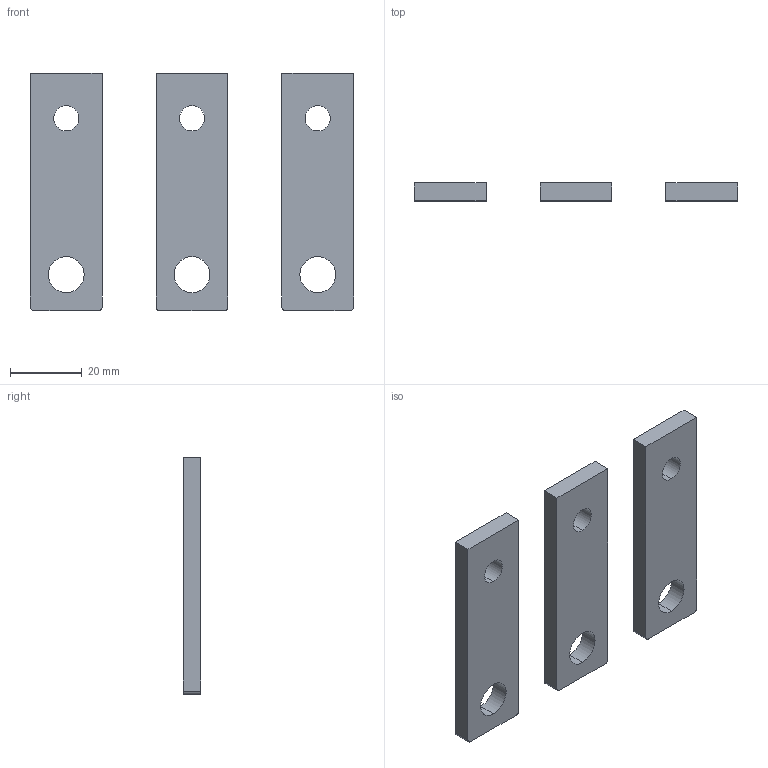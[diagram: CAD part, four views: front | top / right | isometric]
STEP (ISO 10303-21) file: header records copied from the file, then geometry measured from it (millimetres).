
FILE_DESCRIPTION (( 'STEP AP214' ), '1' );
FILE_NAME ('150-250 3 3detali.STEP', '2025-11-26T11:05:16', ( '' ), ( '' ), 'SwSTEP 2.0', 'SolidWorks 2024', '' );
FILE_SCHEMA (( 'AUTOMOTIVE_DESIGN' ));
Length unit declared in the file: millimetre
Products named in the file (2): 150-250 3 3detali; 125-250
Assembly tree (3 placements, depth 2):
  150-250 3 3detali
    125-250  x3
Bounding box: 90 x 5 x 66 mm (x, y, z)
Volume: 18038.2 mm3; surface area: 10583.5 mm2
Topology: 3 solids, 3 shells, 36 faces, 90 edges, 60 vertices
Faces by surface type: cylinder 18, plane 18
Entity records: 445 total; most frequent: DIRECTION 78, CARTESIAN_POINT 68, ORIENTED_EDGE 60, AXIS2_PLACEMENT_3D 30, EDGE_CURVE 30, VERTEX_POINT 20, VECTOR 18, LINE 18
